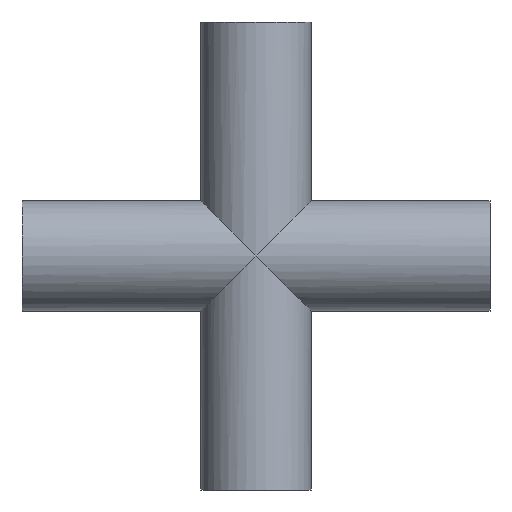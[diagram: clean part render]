
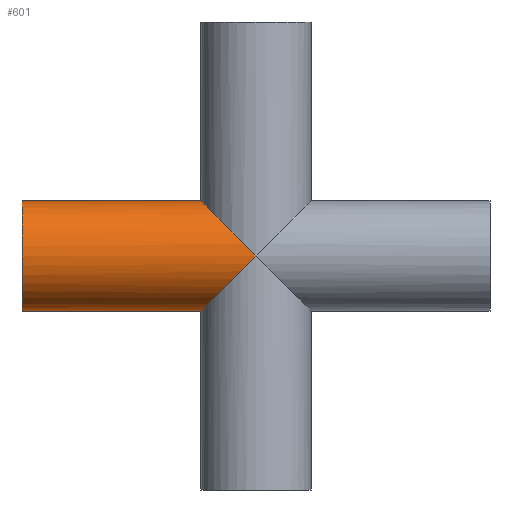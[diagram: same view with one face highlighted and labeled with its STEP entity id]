
A CAD part, front view. The second image highlights one B-rep face of the part: STEP entity #601.
In plain terms, the highlighted cylindrical face has radius 12.7 mm (diameter 25.4 mm), a partial arc.
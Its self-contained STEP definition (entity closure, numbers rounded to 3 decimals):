
#6 = CARTESIAN_POINT ( 'NONE',  ( -53.975, 0., 12.7 ) ) ;
#14 = FACE_OUTER_BOUND ( 'NONE', #304, .T. ) ;
#15 = CARTESIAN_POINT ( 'NONE',  ( -7.439, -12.7, -7.439 ) ) ;
#16 = CARTESIAN_POINT ( 'NONE',  ( -12.7, 0., 12.7 ) ) ;
#39 = LINE ( 'NONE', #514, #136 ) ;
#45 = LINE ( 'NONE', #545, #222 ) ;
#55 = EDGE_CURVE ( 'NONE', #324, #277, #39, .T. ) ;
#62 = CARTESIAN_POINT ( 'NONE',  ( -12.7, 0., -12.7 ) ) ;
#67 = ORIENTED_EDGE ( 'NONE', *, *, #325, .T. ) ;
#82 = VERTEX_POINT ( 'NONE', #591 ) ;
#104 = CARTESIAN_POINT ( 'NONE',  ( -12.7, 0., 12.7 ) ) ;
#136 = VECTOR ( 'NONE', #533, 1000. ) ;
#145 = CYLINDRICAL_SURFACE ( 'NONE', #556, 12.7 ) ;
#148 = CARTESIAN_POINT ( 'NONE',  ( 0., -12.7, 0. ) ) ;
#182 = EDGE_CURVE ( 'NONE', #82, #221, #480, .T. ) ;
#221 = VERTEX_POINT ( 'NONE', #148 ) ;
#222 = VECTOR ( 'NONE', #554, 1000. ) ;
#231 = EDGE_CURVE ( 'NONE', #324, #616, #439, .T. ) ;
#240 = CARTESIAN_POINT ( 'NONE',  ( -12.7, -7.439, 12.7 ) ) ;
#268 = CARTESIAN_POINT ( 'NONE',  ( -53.975, 0., -12.7 ) ) ;
#277 = VERTEX_POINT ( 'NONE', #104 ) ;
#286 = ORIENTED_EDGE ( 'NONE', *, *, #231, .T. ) ;
#304 = EDGE_LOOP ( 'NONE', ( #603, #286, #379, #526, #67 ) ) ;
#324 = VERTEX_POINT ( 'NONE', #6 ) ;
#325 = EDGE_CURVE ( 'NONE', #221, #277, #563, .T. ) ;
#371 = AXIS2_PLACEMENT_3D ( 'NONE', #598, #578, #576 ) ;
#379 = ORIENTED_EDGE ( 'NONE', *, *, #581, .T. ) ;
#407 = CARTESIAN_POINT ( 'NONE',  ( 0., -12.7, 0. ) ) ;
#439 = CIRCLE ( 'NONE', #371, 12.7 ) ;
#480 =( BOUNDED_CURVE ( )  B_SPLINE_CURVE ( 3, ( #62, #560, #15, #525 ),
 .UNSPECIFIED., .F., .T. ) 
 B_SPLINE_CURVE_WITH_KNOTS ( ( 4, 4 ),
 ( 3.142, 4.712 ),
 .UNSPECIFIED. ) 
 CURVE ( )  GEOMETRIC_REPRESENTATION_ITEM ( )  RATIONAL_B_SPLINE_CURVE ( ( 1., 0.805, 0.805, 1. ) ) 
 REPRESENTATION_ITEM ( '' )  );
#498 = CARTESIAN_POINT ( 'NONE',  ( -53.975, 0., 0. ) ) ;
#514 = CARTESIAN_POINT ( 'NONE',  ( -53.975, 0., 12.7 ) ) ;
#525 = CARTESIAN_POINT ( 'NONE',  ( 0., -12.7, 0. ) ) ;
#526 = ORIENTED_EDGE ( 'NONE', *, *, #182, .T. ) ;
#533 = DIRECTION ( 'NONE',  ( 1., 0., 0. ) ) ;
#545 = CARTESIAN_POINT ( 'NONE',  ( -53.975, 0., -12.7 ) ) ;
#554 = DIRECTION ( 'NONE',  ( 1., 0., 0. ) ) ;
#556 = AXIS2_PLACEMENT_3D ( 'NONE', #498, #594, #606 ) ;
#560 = CARTESIAN_POINT ( 'NONE',  ( -12.7, -7.439, -12.7 ) ) ;
#563 =( BOUNDED_CURVE ( )  B_SPLINE_CURVE ( 3, ( #407, #620, #240, #16 ),
 .UNSPECIFIED., .F., .F. ) 
 B_SPLINE_CURVE_WITH_KNOTS ( ( 4, 4 ),
 ( 4.712, 6.283 ),
 .UNSPECIFIED. ) 
 CURVE ( )  GEOMETRIC_REPRESENTATION_ITEM ( )  RATIONAL_B_SPLINE_CURVE ( ( 1., 0.805, 0.805, 1. ) ) 
 REPRESENTATION_ITEM ( '' )  );
#576 = DIRECTION ( 'NONE',  ( 0., 0., -1. ) ) ;
#578 = DIRECTION ( 'NONE',  ( 1., 0., 0. ) ) ;
#581 = EDGE_CURVE ( 'NONE', #616, #82, #45, .T. ) ;
#591 = CARTESIAN_POINT ( 'NONE',  ( -12.7, 0., -12.7 ) ) ;
#594 = DIRECTION ( 'NONE',  ( 1., 0., 0. ) ) ;
#598 = CARTESIAN_POINT ( 'NONE',  ( -53.975, 0., 0. ) ) ;
#601 = ADVANCED_FACE ( 'NONE', ( #14 ), #145, .T. ) ;
#603 = ORIENTED_EDGE ( 'NONE', *, *, #55, .F. ) ;
#606 = DIRECTION ( 'NONE',  ( 0., 0., -1. ) ) ;
#616 = VERTEX_POINT ( 'NONE', #268 ) ;
#620 = CARTESIAN_POINT ( 'NONE',  ( -7.439, -12.7, 7.439 ) ) ;
